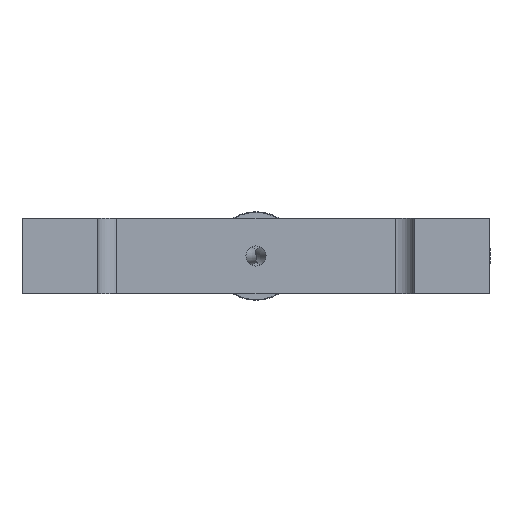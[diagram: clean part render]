
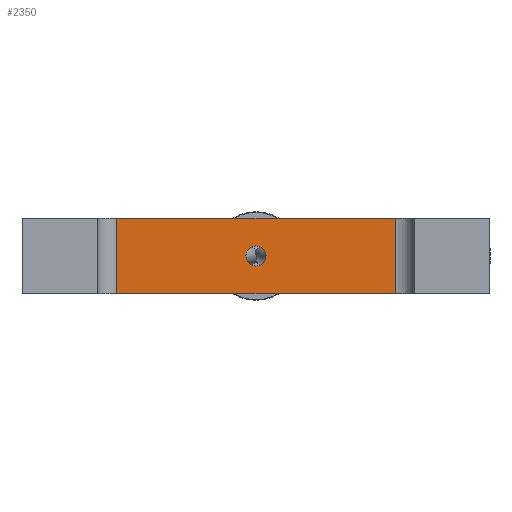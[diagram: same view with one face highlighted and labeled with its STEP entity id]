
A CAD part, left-side view. The second image highlights one B-rep face of the part: STEP entity #2350.
In plain terms, the highlighted planar face has unit normal (-1, 0, 0).
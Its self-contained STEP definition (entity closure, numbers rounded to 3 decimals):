
#112=LINE($,#4261,#200);
#114=LINE($,#4267,#202);
#115=LINE($,#4269,#203);
#116=LINE($,#4270,#204);
#200=VECTOR($,#3333,12.);
#202=VECTOR($,#3339,44.);
#203=VECTOR($,#3340,12.);
#204=VECTOR($,#3341,44.);
#307=PLANE($,#2666);
#402=FACE_BOUND($,#790,.T.);
#403=FACE_BOUND($,#791,.T.);
#790=EDGE_LOOP($,(#1908));
#791=EDGE_LOOP($,(#1909,#1910,#1911,#1912));
#958=CIRCLE($,#2655,1.6);
#1146=VERTEX_POINT($,#4242);
#1153=VERTEX_POINT($,#4258);
#1154=VERTEX_POINT($,#4260);
#1156=VERTEX_POINT($,#4266);
#1157=VERTEX_POINT($,#4268);
#1404=EDGE_CURVE($,#1146,#1146,#958,.T.);
#1411=EDGE_CURVE($,#1153,#1154,#112,.T.);
#1414=EDGE_CURVE($,#1153,#1156,#114,.T.);
#1415=EDGE_CURVE($,#1157,#1156,#115,.T.);
#1416=EDGE_CURVE($,#1157,#1154,#116,.T.);
#1908=ORIENTED_EDGE($,*,*,#1404,.T.);
#1909=ORIENTED_EDGE($,*,*,#1411,.F.);
#1910=ORIENTED_EDGE($,*,*,#1414,.T.);
#1911=ORIENTED_EDGE($,*,*,#1415,.F.);
#1912=ORIENTED_EDGE($,*,*,#1416,.T.);
#2350=ADVANCED_FACE($,(#402,#403),#307,.T.);
#2655=AXIS2_PLACEMENT_3D($,#4243,#3313,#3314);
#2666=AXIS2_PLACEMENT_3D($,#4265,#3337,#3338);
#3313=DIRECTION('center_axis',(1.,0.,0.));
#3314=DIRECTION('ref_axis',(0.,0.,-1.));
#3333=DIRECTION($,(0.,0.,1.));
#3337=DIRECTION('center_axis',(-1.,0.,0.));
#3338=DIRECTION('ref_axis',(0.,0.,1.));
#3339=DIRECTION($,(0.,-1.,0.));
#3340=DIRECTION($,(0.,0.,-1.));
#3341=DIRECTION($,(0.,1.,0.));
#4242=CARTESIAN_POINT('',(22.,0.,7.6));
#4243=CARTESIAN_POINT('Origin',(22.,0.,6.));
#4258=CARTESIAN_POINT('',(22.,22.,0.));
#4260=CARTESIAN_POINT('',(22.,22.,12.));
#4261=CARTESIAN_POINT($,(22.,22.,0.));
#4265=CARTESIAN_POINT('Origin',(22.,-25.,0.));
#4266=CARTESIAN_POINT('',(22.,-22.,0.));
#4267=CARTESIAN_POINT($,(22.,25.,0.));
#4268=CARTESIAN_POINT('',(22.,-22.,12.));
#4269=CARTESIAN_POINT($,(22.,-22.,0.));
#4270=CARTESIAN_POINT($,(22.,25.,12.));
